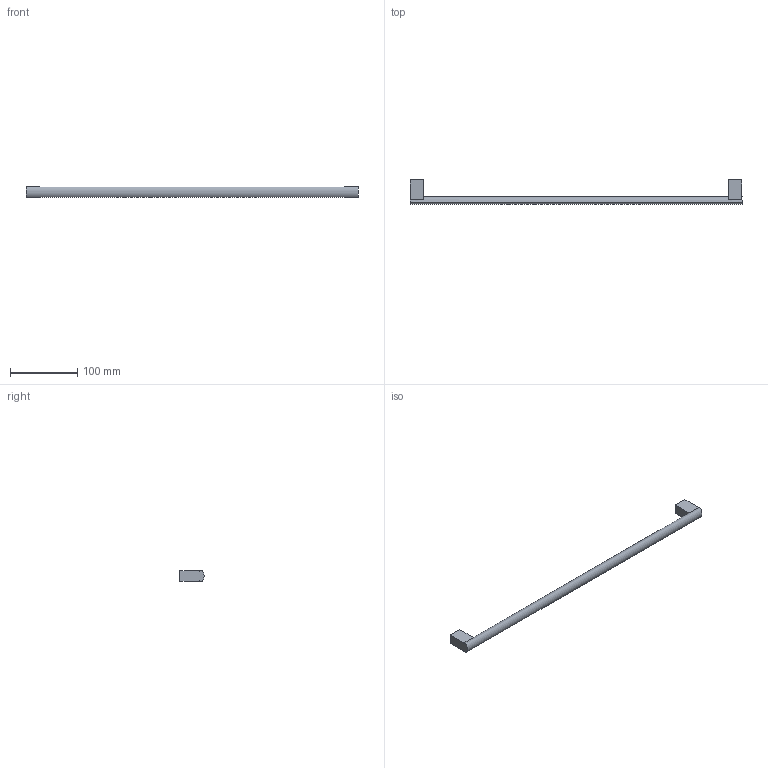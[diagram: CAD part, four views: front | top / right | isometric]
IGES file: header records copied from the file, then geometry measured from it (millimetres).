
Start section: Data from Parasolid IGES Translator 20.0.26, Copyright(c) 2006 Siemens P LM Software. All Rights Reserved.
Global section: file name: 115361.igs; native system: By Siemens PLM Incorporated; preprocessor: XPlus GENERIC/IGES 20.0.26; author: Noname; organization: Noname; date: 20230220.163452; units: millimetre
Bounding box: 494 x 35.96 x 16 mm (x, y, z)
Surface area: 25387.1 mm2 (no closed solid volume)
Topology: 0 solids, 0 shells, 22 faces, 102 edges, 100 vertices
Faces by surface type: extrusion 17, revolution 5
